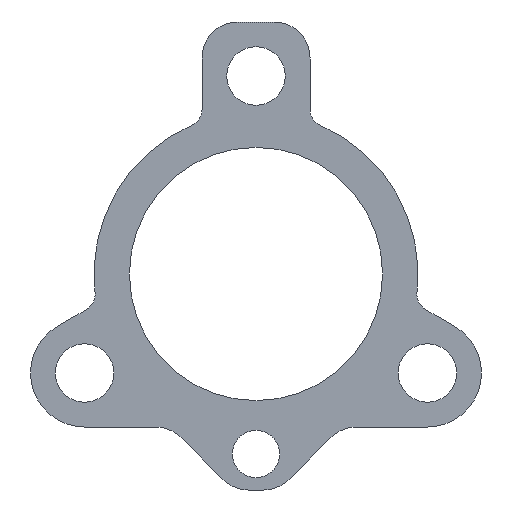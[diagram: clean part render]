
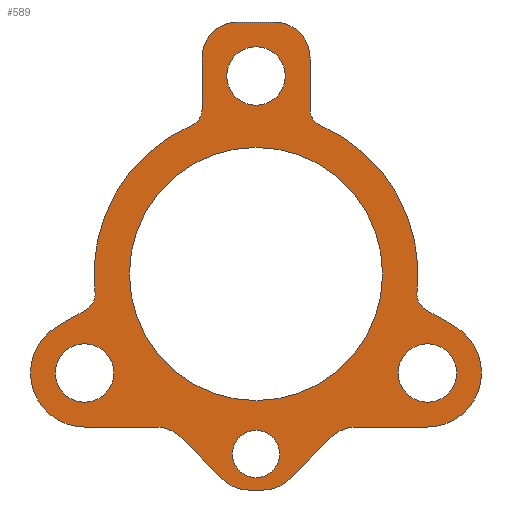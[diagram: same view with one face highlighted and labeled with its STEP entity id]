
A CAD part, front view. The second image highlights one B-rep face of the part: STEP entity #589.
In plain terms, the highlighted planar face has unit normal (0, -1, 0).
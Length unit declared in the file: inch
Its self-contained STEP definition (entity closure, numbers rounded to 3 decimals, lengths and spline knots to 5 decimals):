
#15=FACE_BOUND('',#75,.T.);
#16=FACE_BOUND('',#76,.T.);
#17=FACE_BOUND('',#77,.T.);
#18=FACE_BOUND('',#78,.T.);
#19=FACE_BOUND('',#79,.T.);
#28=PLANE('',#640);
#43=FACE_OUTER_BOUND('',#74,.T.);
#74=EDGE_LOOP('',(#414,#415,#416,#417,#418,#419,#420,#421,#422,#423,#424,
#425,#426,#427,#428,#429,#430,#431,#432,#433,#434,#435,#436,#437));
#75=EDGE_LOOP('',(#438));
#76=EDGE_LOOP('',(#439));
#77=EDGE_LOOP('',(#440));
#78=EDGE_LOOP('',(#441));
#79=EDGE_LOOP('',(#442));
#111=LINE('',#898,#160);
#116=LINE('',#913,#165);
#122=LINE('',#928,#171);
#123=LINE('',#931,#172);
#124=LINE('',#934,#173);
#125=LINE('',#938,#174);
#126=LINE('',#946,#175);
#127=LINE('',#950,#176);
#128=LINE('',#954,#177);
#129=LINE('',#962,#178);
#160=VECTOR('',#709,0.3937);
#165=VECTOR('',#722,0.3937);
#171=VECTOR('',#736,0.3937);
#172=VECTOR('',#739,0.3937);
#173=VECTOR('',#742,0.3937);
#174=VECTOR('',#745,0.3937);
#175=VECTOR('',#752,0.3937);
#176=VECTOR('',#755,0.3937);
#177=VECTOR('',#758,0.3937);
#178=VECTOR('',#765,0.3937);
#207=CIRCLE('',#629,0.25);
#209=CIRCLE('',#633,0.25);
#212=CIRCLE('',#638,0.25);
#213=CIRCLE('',#641,0.25);
#214=CIRCLE('',#642,0.375);
#215=CIRCLE('',#643,0.125);
#216=CIRCLE('',#644,1.125);
#217=CIRCLE('',#645,0.125);
#218=CIRCLE('',#646,0.25);
#219=CIRCLE('',#647,0.25);
#220=CIRCLE('',#648,0.125);
#221=CIRCLE('',#649,1.125);
#222=CIRCLE('',#650,0.125);
#223=CIRCLE('',#651,0.375);
#224=CIRCLE('',#652,0.87891);
#225=CIRCLE('',#653,0.20313);
#226=CIRCLE('',#654,0.16406);
#227=CIRCLE('',#655,0.20313);
#228=CIRCLE('',#656,0.20313);
#245=VERTEX_POINT('',#888);
#246=VERTEX_POINT('',#889);
#249=VERTEX_POINT('',#897);
#251=VERTEX_POINT('',#903);
#252=VERTEX_POINT('',#904);
#255=VERTEX_POINT('',#912);
#259=VERTEX_POINT('',#921);
#260=VERTEX_POINT('',#923);
#261=VERTEX_POINT('',#930);
#262=VERTEX_POINT('',#933);
#263=VERTEX_POINT('',#935);
#264=VERTEX_POINT('',#937);
#265=VERTEX_POINT('',#939);
#266=VERTEX_POINT('',#941);
#267=VERTEX_POINT('',#943);
#268=VERTEX_POINT('',#945);
#269=VERTEX_POINT('',#947);
#270=VERTEX_POINT('',#949);
#271=VERTEX_POINT('',#951);
#272=VERTEX_POINT('',#953);
#273=VERTEX_POINT('',#955);
#274=VERTEX_POINT('',#957);
#275=VERTEX_POINT('',#959);
#276=VERTEX_POINT('',#961);
#277=VERTEX_POINT('',#964);
#278=VERTEX_POINT('',#966);
#279=VERTEX_POINT('',#968);
#280=VERTEX_POINT('',#970);
#281=VERTEX_POINT('',#972);
#303=EDGE_CURVE('',#245,#246,#207,.T.);
#307=EDGE_CURVE('',#249,#246,#111,.T.);
#310=EDGE_CURVE('',#251,#252,#209,.T.);
#314=EDGE_CURVE('',#252,#255,#116,.T.);
#319=EDGE_CURVE('',#259,#260,#212,.T.);
#322=EDGE_CURVE('',#260,#251,#122,.T.);
#323=EDGE_CURVE('',#259,#261,#123,.T.);
#324=EDGE_CURVE('',#249,#261,#213,.T.);
#325=EDGE_CURVE('',#245,#262,#124,.T.);
#326=EDGE_CURVE('',#263,#262,#214,.T.);
#327=EDGE_CURVE('',#263,#264,#125,.T.);
#328=EDGE_CURVE('',#264,#265,#215,.T.);
#329=EDGE_CURVE('',#266,#265,#216,.T.);
#330=EDGE_CURVE('',#266,#267,#217,.T.);
#331=EDGE_CURVE('',#268,#267,#126,.T.);
#332=EDGE_CURVE('',#269,#268,#218,.T.);
#333=EDGE_CURVE('',#270,#269,#127,.T.);
#334=EDGE_CURVE('',#271,#270,#219,.T.);
#335=EDGE_CURVE('',#271,#272,#128,.T.);
#336=EDGE_CURVE('',#272,#273,#220,.T.);
#337=EDGE_CURVE('',#274,#273,#221,.T.);
#338=EDGE_CURVE('',#274,#275,#222,.T.);
#339=EDGE_CURVE('',#276,#275,#129,.T.);
#340=EDGE_CURVE('',#255,#276,#223,.T.);
#341=EDGE_CURVE('',#277,#277,#224,.T.);
#342=EDGE_CURVE('',#278,#278,#225,.T.);
#343=EDGE_CURVE('',#279,#279,#226,.F.);
#344=EDGE_CURVE('',#280,#280,#227,.T.);
#345=EDGE_CURVE('',#281,#281,#228,.T.);
#414=ORIENTED_EDGE('',*,*,#319,.F.);
#415=ORIENTED_EDGE('',*,*,#323,.T.);
#416=ORIENTED_EDGE('',*,*,#324,.F.);
#417=ORIENTED_EDGE('',*,*,#307,.T.);
#418=ORIENTED_EDGE('',*,*,#303,.F.);
#419=ORIENTED_EDGE('',*,*,#325,.T.);
#420=ORIENTED_EDGE('',*,*,#326,.F.);
#421=ORIENTED_EDGE('',*,*,#327,.T.);
#422=ORIENTED_EDGE('',*,*,#328,.T.);
#423=ORIENTED_EDGE('',*,*,#329,.F.);
#424=ORIENTED_EDGE('',*,*,#330,.T.);
#425=ORIENTED_EDGE('',*,*,#331,.F.);
#426=ORIENTED_EDGE('',*,*,#332,.F.);
#427=ORIENTED_EDGE('',*,*,#333,.F.);
#428=ORIENTED_EDGE('',*,*,#334,.F.);
#429=ORIENTED_EDGE('',*,*,#335,.T.);
#430=ORIENTED_EDGE('',*,*,#336,.T.);
#431=ORIENTED_EDGE('',*,*,#337,.F.);
#432=ORIENTED_EDGE('',*,*,#338,.T.);
#433=ORIENTED_EDGE('',*,*,#339,.F.);
#434=ORIENTED_EDGE('',*,*,#340,.F.);
#435=ORIENTED_EDGE('',*,*,#314,.F.);
#436=ORIENTED_EDGE('',*,*,#310,.F.);
#437=ORIENTED_EDGE('',*,*,#322,.F.);
#438=ORIENTED_EDGE('',*,*,#341,.F.);
#439=ORIENTED_EDGE('',*,*,#342,.F.);
#440=ORIENTED_EDGE('',*,*,#343,.F.);
#441=ORIENTED_EDGE('',*,*,#344,.F.);
#442=ORIENTED_EDGE('',*,*,#345,.F.);
#589=ADVANCED_FACE('',(#43,#15,#16,#17,#18,#19),#28,.F.);
#629=AXIS2_PLACEMENT_3D('',#890,#701,#702);
#633=AXIS2_PLACEMENT_3D('',#905,#714,#715);
#638=AXIS2_PLACEMENT_3D('',#924,#730,#731);
#640=AXIS2_PLACEMENT_3D('',#929,#737,#738);
#641=AXIS2_PLACEMENT_3D('',#932,#740,#741);
#642=AXIS2_PLACEMENT_3D('',#936,#743,#744);
#643=AXIS2_PLACEMENT_3D('',#940,#746,#747);
#644=AXIS2_PLACEMENT_3D('',#942,#748,#749);
#645=AXIS2_PLACEMENT_3D('',#944,#750,#751);
#646=AXIS2_PLACEMENT_3D('',#948,#753,#754);
#647=AXIS2_PLACEMENT_3D('',#952,#756,#757);
#648=AXIS2_PLACEMENT_3D('',#956,#759,#760);
#649=AXIS2_PLACEMENT_3D('',#958,#761,#762);
#650=AXIS2_PLACEMENT_3D('',#960,#763,#764);
#651=AXIS2_PLACEMENT_3D('',#963,#766,#767);
#652=AXIS2_PLACEMENT_3D('',#965,#768,#769);
#653=AXIS2_PLACEMENT_3D('',#967,#770,#771);
#654=AXIS2_PLACEMENT_3D('',#969,#772,#773);
#655=AXIS2_PLACEMENT_3D('',#971,#774,#775);
#656=AXIS2_PLACEMENT_3D('',#973,#776,#777);
#701=DIRECTION('center_axis',(0.,-1.,0.));
#702=DIRECTION('ref_axis',(-0.383,0.,0.924));
#709=DIRECTION('',(0.707,0.,0.707));
#714=DIRECTION('center_axis',(0.,-1.,0.));
#715=DIRECTION('ref_axis',(0.383,0.,0.924));
#722=DIRECTION('',(-1.,0.,0.));
#730=DIRECTION('center_axis',(0.,1.,0.));
#731=DIRECTION('ref_axis',(-0.383,0.,-0.924));
#736=DIRECTION('',(-0.707,0.,0.707));
#737=DIRECTION('center_axis',(0.,1.,0.));
#738=DIRECTION('ref_axis',(1.,0.,0.));
#739=DIRECTION('',(1.,0.,0.));
#740=DIRECTION('center_axis',(0.,1.,0.));
#741=DIRECTION('ref_axis',(0.383,0.,-0.924));
#742=DIRECTION('',(1.,0.,0.));
#743=DIRECTION('center_axis',(0.,1.,0.));
#744=DIRECTION('ref_axis',(0.5,0.,0.866));
#745=DIRECTION('',(-0.866,0.,0.5));
#746=DIRECTION('center_axis',(0.,1.,0.));
#747=DIRECTION('ref_axis',(-0.5,0.,-0.866));
#748=DIRECTION('center_axis',(0.,1.,0.));
#749=DIRECTION('ref_axis',(0.4,0.,0.917));
#750=DIRECTION('center_axis',(0.,1.,0.));
#751=DIRECTION('ref_axis',(-0.4,0.,-0.917));
#752=DIRECTION('',(0.,0.,-1.));
#753=DIRECTION('center_axis',(0.,1.,0.));
#754=DIRECTION('ref_axis',(0.,0.,1.));
#755=DIRECTION('',(1.,0.,0.));
#756=DIRECTION('center_axis',(0.,1.,0.));
#757=DIRECTION('ref_axis',(-1.,0.,0.));
#758=DIRECTION('',(0.,0.,-1.));
#759=DIRECTION('center_axis',(0.,1.,0.));
#760=DIRECTION('ref_axis',(1.,0.,0.));
#761=DIRECTION('center_axis',(0.,1.,0.));
#762=DIRECTION('ref_axis',(-0.994,0.,-0.112));
#763=DIRECTION('center_axis',(0.,1.,0.));
#764=DIRECTION('ref_axis',(0.994,0.,0.112));
#765=DIRECTION('',(0.866,0.,0.5));
#766=DIRECTION('center_axis',(0.,1.,0.));
#767=DIRECTION('ref_axis',(0.,0.,-1.));
#768=DIRECTION('center_axis',(0.,-1.,0.));
#769=DIRECTION('ref_axis',(1.,0.,0.));
#770=DIRECTION('center_axis',(0.,-1.,0.));
#771=DIRECTION('ref_axis',(1.,0.,0.));
#772=DIRECTION('center_axis',(0.,1.,0.));
#773=DIRECTION('ref_axis',(1.,0.,0.));
#774=DIRECTION('center_axis',(0.,-1.,0.));
#775=DIRECTION('ref_axis',(1.,0.,0.));
#776=DIRECTION('center_axis',(0.,-1.,0.));
#777=DIRECTION('ref_axis',(1.,0.,0.));
#888=CARTESIAN_POINT('',(0.6973,0.,-1.0625));
#889=CARTESIAN_POINT('',(0.52053,0.,-1.13572));
#890=CARTESIAN_POINT('Origin',(0.6973,0.,-1.3125));
#897=CARTESIAN_POINT('',(0.22947,0.,-1.42678));
#898=CARTESIAN_POINT('',(0.15625,0.,-1.5));
#903=CARTESIAN_POINT('',(-0.52053,0.,-1.13572));
#904=CARTESIAN_POINT('',(-0.6973,0.,-1.0625));
#905=CARTESIAN_POINT('Origin',(-0.6973,0.,-1.3125));
#912=CARTESIAN_POINT('',(-1.19078,0.,-1.0625));
#913=CARTESIAN_POINT('',(-0.59375,0.,-1.0625));
#921=CARTESIAN_POINT('',(-0.0527,0.,-1.5));
#923=CARTESIAN_POINT('',(-0.22947,0.,-1.42678));
#924=CARTESIAN_POINT('Origin',(-0.0527,0.,-1.25));
#928=CARTESIAN_POINT('',(-0.15625,0.,-1.5));
#929=CARTESIAN_POINT('Origin',(0.,0.,0.125));
#930=CARTESIAN_POINT('',(0.0527,0.,-1.5));
#931=CARTESIAN_POINT('',(-0.15625,0.,-1.5));
#932=CARTESIAN_POINT('Origin',(0.0527,0.,-1.25));
#933=CARTESIAN_POINT('',(1.19078,0.,-1.0625));
#934=CARTESIAN_POINT('',(0.59375,0.,-1.0625));
#935=CARTESIAN_POINT('',(1.37828,0.,-0.36274));
#936=CARTESIAN_POINT('Origin',(1.19078,0.,-0.6875));
#937=CARTESIAN_POINT('',(1.17966,0.,-0.24806));
#938=CARTESIAN_POINT('',(1.37828,0.,-0.36274));
#939=CARTESIAN_POINT('',(1.11794,0.,-0.12583));
#940=CARTESIAN_POINT('Origin',(1.24216,0.,-0.13981));
#941=CARTESIAN_POINT('',(0.45,0.,1.03108));
#942=CARTESIAN_POINT('Origin',(0.,0.,0.));
#943=CARTESIAN_POINT('',(0.375,0.,1.14564));
#944=CARTESIAN_POINT('Origin',(0.5,0.,1.14564));
#945=CARTESIAN_POINT('',(0.375,0.,1.5));
#946=CARTESIAN_POINT('',(0.375,0.,1.5));
#947=CARTESIAN_POINT('',(0.125,0.,1.75));
#948=CARTESIAN_POINT('Origin',(0.125,0.,1.5));
#949=CARTESIAN_POINT('',(-0.125,0.,1.75));
#950=CARTESIAN_POINT('',(-0.125,0.,1.75));
#951=CARTESIAN_POINT('',(-0.375,0.,1.5));
#952=CARTESIAN_POINT('Origin',(-0.125,0.,1.5));
#953=CARTESIAN_POINT('',(-0.375,0.,1.14564));
#954=CARTESIAN_POINT('',(-0.375,0.,1.5));
#955=CARTESIAN_POINT('',(-0.45,0.,1.03108));
#956=CARTESIAN_POINT('Origin',(-0.5,0.,1.14564));
#957=CARTESIAN_POINT('',(-1.11794,0.,-0.12583));
#958=CARTESIAN_POINT('Origin',(0.,0.,0.));
#959=CARTESIAN_POINT('',(-1.17966,0.,-0.24806));
#960=CARTESIAN_POINT('Origin',(-1.24216,0.,-0.13981));
#961=CARTESIAN_POINT('',(-1.37828,0.,-0.36274));
#962=CARTESIAN_POINT('',(-1.37828,0.,-0.36274));
#963=CARTESIAN_POINT('Origin',(-1.19078,0.,-0.6875));
#964=CARTESIAN_POINT('',(-0.87891,0.,0.));
#965=CARTESIAN_POINT('Origin',(0.,0.,0.));
#966=CARTESIAN_POINT('',(0.98766,0.,-0.6875));
#967=CARTESIAN_POINT('Origin',(1.19078,0.,-0.6875));
#968=CARTESIAN_POINT('',(-0.16406,0.,-1.25));
#969=CARTESIAN_POINT('Origin',(0.,0.,-1.25));
#970=CARTESIAN_POINT('',(-0.20313,0.,1.375));
#971=CARTESIAN_POINT('Origin',(0.,0.,1.375));
#972=CARTESIAN_POINT('',(-1.39391,0.,-0.6875));
#973=CARTESIAN_POINT('Origin',(-1.19078,0.,-0.6875));
